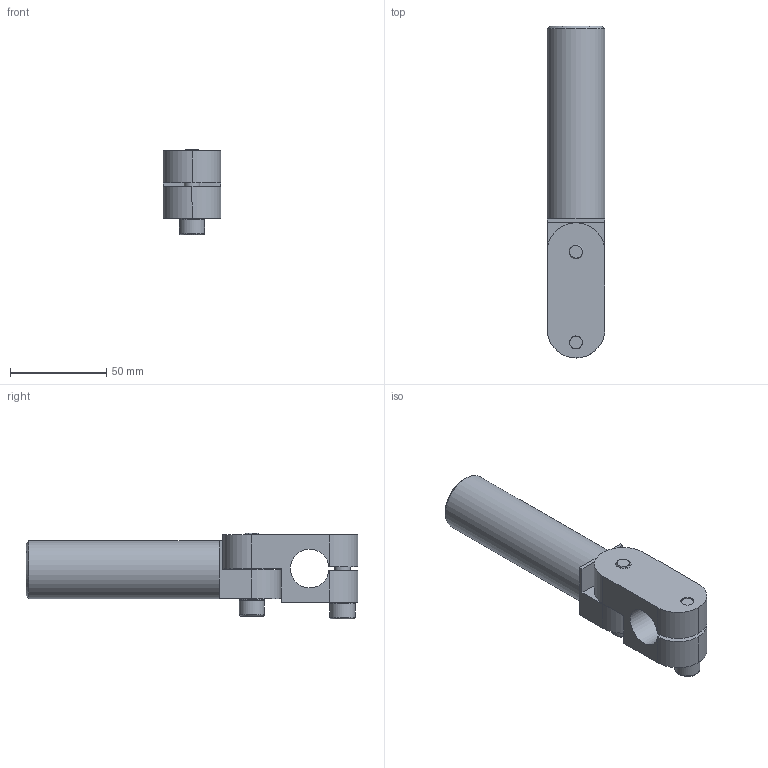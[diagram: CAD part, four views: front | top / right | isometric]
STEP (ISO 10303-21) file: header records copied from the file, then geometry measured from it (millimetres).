
FILE_DESCRIPTION(('STEP AP214'),'1');
FILE_NAME('CA.GLA.2030.stp','2020-09-21T09:16:20',(' '),(' '),'Spatial InterOp 3D',' ',' ');
FILE_SCHEMA(('AUTOMOTIVE_DESIGN { 1 0 10303 214 1 1 1 1 }'));
Length unit declared in the file: millimetre
Products named in the file (5): CA.GLA.2030; GLA.30.1; R.8.SCH; GLA.20.2.30; V.TCE8x35 2
Assembly tree (7 placements, depth 2):
  CA.GLA.2030
    GLA.30.1
    R.8.SCH  x3
    GLA.20.2.30
    V.TCE8x35 2  x2
Bounding box: 30 x 172 x 44.5 mm (x, y, z)
Volume: 105472.2 mm3; surface area: 34068.3 mm2
Topology: 7 solids, 7 shells, 79 faces, 178 edges, 117 vertices
Faces by surface type: plane 47, cylinder 24, cone 4, torus 4
Full cylindrical faces by diameter (mm): 6.75 x2, 8 x2, 8.2 x2, 8.3 x3, 13 x5, 20 x1, 30 x1
Entity records: 2270 total; most frequent: DIRECTION 282, CARTESIAN_POINT 261, ORIENTED_EDGE 224, EDGE_CURVE 112, AXIS2_PLACEMENT_3D 107, EDGE_LOOP 83, VERTEX_POINT 82, FACE_OUTER_BOUND 68
